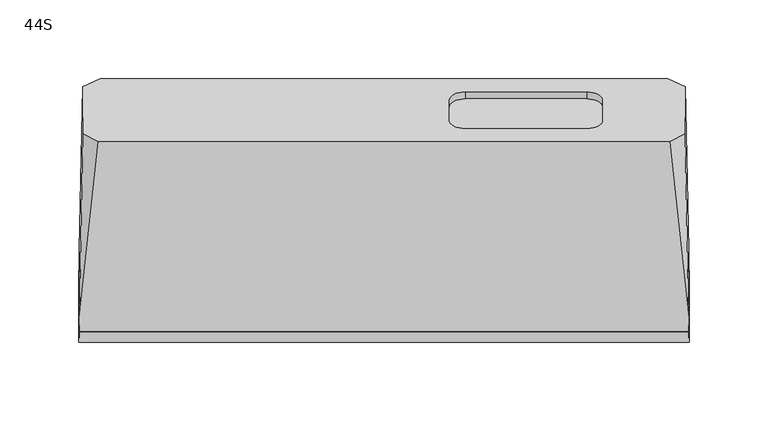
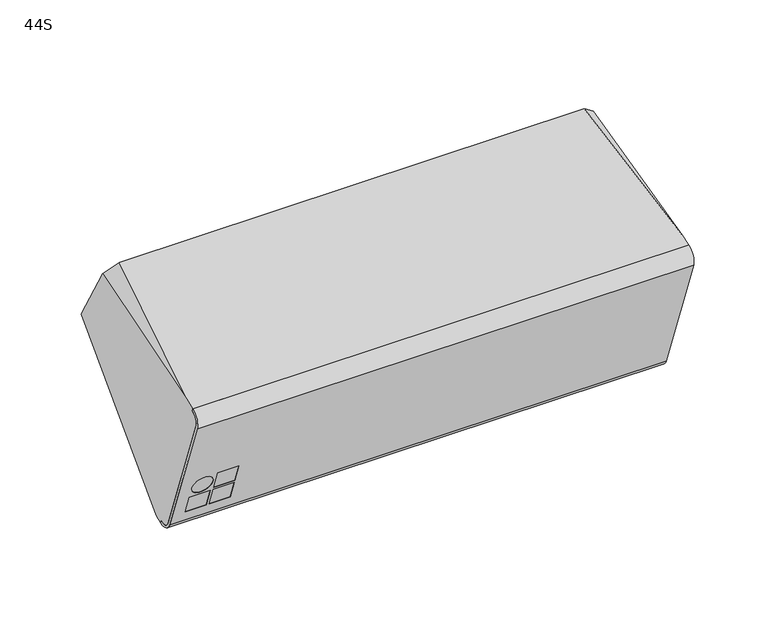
"""IFC4 building model written with IfcOpenShell, lengths in millimetres: proxy geometry, d&b xS-Series 44S Point Source : 44S."""

import ifcopenshell
import ifcopenshell.guid

model = None  # the IFC model being written
_history = None  # IfcOwnerHistory: only IFC2X3 demands one
_inside = {}  # id of a spatial element -> (the spatial element, [elements in it])
_under = {}  # id of a project, library or spatial element -> (it, [spatial elements below it])
_declared = {}  # id of a project -> (the project, [libraries it declares])
_typed = {}  # id of a type object -> (the type object, [elements of that type])
_made_of = {}  # id of a material, layer set ... -> (it, [elements and type objects made of it])


def new_model(schema):
    """Start an empty IFC model of exactly this schema.

    Asked for "IFC4X3", IfcOpenShell would pick the latest addendum, in which some entities
    have other attributes; the version numbers below select the first issue.
    IFC2X3 requires an IfcOwnerHistory on every rooted entity: one is made here for all.
    """
    global model, _history
    if schema == "IFC4X3":
        model = ifcopenshell.file(schema_version=(4, 3, 0, 0))
    else:
        model = ifcopenshell.file(schema=schema)
    _inside.clear()
    _under.clear()
    _declared.clear()
    _typed.clear()
    _made_of.clear()
    _history = None
    if model.schema == "IFC2X3":
        org = make("IfcOrganization", Name="unknown")
        user = make(
            "IfcPersonAndOrganization",
            ThePerson=make("IfcPerson", FamilyName="unknown"),
            TheOrganization=org,
        )
        app = make(
            "IfcApplication",
            ApplicationDeveloper=org,
            Version="unknown",
            ApplicationFullName="unknown",
            ApplicationIdentifier="unknown",
        )
        _history = make(
            "IfcOwnerHistory",
            OwningUser=user,
            OwningApplication=app,
            ChangeAction="ADDED",
            CreationDate=0,
        )
    return model


def make(cls, **values):
    """One entity of the class cls with the attributes given. An attribute that is None is left unset."""
    return model.create_entity(
        cls, **{name: value for name, value in values.items() if value is not None}
    )


def rooted(cls, **values):
    """An entity with a GlobalId (a new one), such as an element, a storey or a relation."""
    return make(cls, GlobalId=ifcopenshell.guid.new(), OwnerHistory=_history, **values)


def si_unit(unit_type, name, prefix=None):
    """IfcSIUnit, for example si_unit("LENGTHUNIT", "METRE", prefix="MILLI")."""
    return make("IfcSIUnit", UnitType=unit_type, Prefix=prefix, Name=name)


def assignment(units):
    """IfcUnitAssignment: the units of a project."""
    return None if units is None else make("IfcUnitAssignment", Units=units)


def point(xyz):
    """IfcCartesianPoint."""
    return None if xyz is None else make("IfcCartesianPoint", Coordinates=xyz)


def direction(xyz):
    """IfcDirection."""
    return None if xyz is None else make("IfcDirection", DirectionRatios=xyz)


def frame(location, z_axis=None, x_axis=None):
    """IfcAxis2Placement3D, a coordinate frame: its origin and axes. An axis left out is left unset."""
    return make(
        "IfcAxis2Placement3D",
        Location=point(location),
        Axis=direction(z_axis),
        RefDirection=direction(x_axis),
    )


def frame_2d(location, x_axis=None):
    """IfcAxis2Placement2D, a coordinate frame in the plane: its origin and x axis."""
    return make(
        "IfcAxis2Placement2D", Location=point(location), RefDirection=direction(x_axis)
    )


def origin():
    """The frame at (0, 0, 0) with its axes left unset."""
    return frame((0.0, 0.0, 0.0))


def place(relative_to, where):
    """IfcLocalPlacement: puts the frame where relative to a parent placement (None: the world)."""
    return make(
        "IfcLocalPlacement", PlacementRelTo=relative_to, RelativePlacement=where
    )


def context(
    kind, dimensions, precision=None, world=None, true_north=None, identifier=None
):
    """IfcGeometricRepresentationContext, for example the 3D "Model" context."""
    return make(
        "IfcGeometricRepresentationContext",
        ContextIdentifier=identifier,
        ContextType=kind,
        CoordinateSpaceDimension=dimensions,
        Precision=precision,
        WorldCoordinateSystem=world,
        TrueNorth=true_north,
    )


def project(units=None, contexts=None):
    """IfcProject with its units and contexts."""
    return rooted(
        "IfcProject",
        Name="project",
        RepresentationContexts=contexts,
        UnitsInContext=assignment(units),
    )


def spatial(cls, under=None, at=None, **own):
    """A site, building, storey or space (cls), placed at a placement, below another one or the project."""
    s = rooted(cls, ObjectPlacement=at, **own)
    if under is not None:
        _under.setdefault(under.id(), (under, []))[1].append(s)
    return s


def polyline(points):
    """IfcPolyline through the points."""
    return make("IfcPolyline", Points=[point(p) for p in points])


def circle_curve(where, radius):
    """IfcCircle in the frame where."""
    return make("IfcCircle", Position=where, Radius=radius)


def ellipse_curve(where, semi_axis1, semi_axis2):
    """IfcEllipse in the frame where."""
    return make(
        "IfcEllipse", Position=where, SemiAxis1=semi_axis1, SemiAxis2=semi_axis2
    )


def trimmed(basis, trim1, trim2, sense, master):
    """IfcTrimmedCurve: the piece of a basis curve between two trims."""
    return make(
        "IfcTrimmedCurve",
        BasisCurve=basis,
        Trim1=trim1,
        Trim2=trim2,
        SenseAgreement=sense,
        MasterRepresentation=master,
    )


def segment(curve, same_sense, transition):
    """IfcCompositeCurveSegment."""
    return make(
        "IfcCompositeCurveSegment",
        Transition=transition,
        SameSense=same_sense,
        ParentCurve=curve,
    )


def composite_curve(segments, self_intersect=None):
    """IfcCompositeCurve: segments joined end to end."""
    return make("IfcCompositeCurve", Segments=segments, SelfIntersect=self_intersect)


def outline(outer, holes=None, kind="AREA"):
    """IfcArbitraryClosedProfileDef: a profile drawn as a closed curve; with holes, ...WithVoids."""
    if holes is None:
        return make("IfcArbitraryClosedProfileDef", ProfileType=kind, OuterCurve=outer)
    return make(
        "IfcArbitraryProfileDefWithVoids",
        ProfileType=kind,
        OuterCurve=outer,
        InnerCurves=holes,
    )


def extrude(swept, where, along, depth):
    """IfcExtrudedAreaSolid: the profile swept, set in the frame where, extruded along a direction by depth."""
    return make(
        "IfcExtrudedAreaSolid",
        SweptArea=swept,
        Position=where,
        ExtrudedDirection=direction(along),
        Depth=depth,
    )


def shape(context_of_items, identifier, shape_type, items):
    """IfcShapeRepresentation: the items that make up one representation, for example the "Body"."""
    return make(
        "IfcShapeRepresentation",
        ContextOfItems=context_of_items,
        RepresentationIdentifier=identifier,
        RepresentationType=shape_type,
        Items=items,
    )


def source(mapping_origin, context_of_items, identifier, shape_type, items):
    """IfcRepresentationMap: a shape defined once, which mapped items show again and again."""
    return make(
        "IfcRepresentationMap",
        MappingOrigin=mapping_origin,
        MappedRepresentation=shape(context_of_items, identifier, shape_type, items),
    )


def transform(
    local_origin,
    x_axis=None,
    y_axis=None,
    z_axis=None,
    scale=None,
    scale2=None,
    scale3=None,
    uniform=True,
):
    """IfcCartesianTransformationOperator3D, or its non-uniform kind. x_axis, y_axis, z_axis: its Axis1, 2, 3."""
    if uniform:
        return make(
            "IfcCartesianTransformationOperator3D",
            Axis1=direction(x_axis),
            Axis2=direction(y_axis),
            LocalOrigin=point(local_origin),
            Scale=scale,
            Axis3=direction(z_axis),
        )
    return make(
        "IfcCartesianTransformationOperator3DnonUniform",
        Axis1=direction(x_axis),
        Axis2=direction(y_axis),
        LocalOrigin=point(local_origin),
        Scale=scale,
        Axis3=direction(z_axis),
        Scale2=scale2,
        Scale3=scale3,
    )


def mapped(mapping_source, mapping_target):
    """IfcMappedItem: shows the shape of a source again, moved by a transform."""
    return make(
        "IfcMappedItem", MappingSource=mapping_source, MappingTarget=mapping_target
    )


def made_of(thing, what):
    """Note that an element or type object is made of a material, layer set ...; save() writes the relation."""
    if what is not None:
        _made_of.setdefault(what.id(), (what, []))[1].append(thing)
    return thing


def element(
    cls,
    number,
    at=None,
    inside=None,
    cuts=None,
    type_object=None,
    material=None,
    context=None,
    identifier="Body",
    shape_type=None,
    held_by="IfcProductDefinitionShape",
    body=None,
    shapes=None,
    **own,
):
    """One element of the class cls, such as IfcWall. Its Tag is "e" and its number.

    at: its placement. inside: the storey or other place that contains it. cuts: it is an
    opening in that element (IfcRelVoidsElement). A single representation is given by context,
    identifier, shape_type and body (its items); several are given by shapes. held_by: the class
    of the entity that holds the representations. save() writes the other relations.
    """
    e = rooted(cls, Tag="e%d" % number, ObjectPlacement=at, **own)
    if body is not None:
        shapes = [shape(context, identifier, shape_type, body)]
    if shapes is not None:
        e.Representation = make(held_by, Representations=shapes)
    if inside is not None:
        _inside.setdefault(inside.id(), (inside, []))[1].append(e)
    if cuts is not None:
        rooted(
            "IfcRelVoidsElement", RelatingBuildingElement=cuts, RelatedOpeningElement=e
        )
    if type_object is not None:
        _typed.setdefault(type_object.id(), (type_object, []))[1].append(e)
    return made_of(e, material)


def aggregate(whole, parts):
    """IfcRelAggregates: a whole, such as a stair, and the parts it consists of."""
    return rooted("IfcRelAggregates", RelatingObject=whole, RelatedObjects=parts)


def save(model, path):
    """Write the relations noted so far, then the file.

    IfcRelAggregates (storeys below a building ...), IfcRelContainedInSpatialStructure (elements
    in a storey), IfcRelDefinesByType, IfcRelAssociatesMaterial and IfcRelDeclares: one each for
    every whole, place, type object, material and project.
    """
    for whole, parts in _under.values():
        aggregate(whole, parts)
    for where, things in _inside.values():
        rooted(
            "IfcRelContainedInSpatialStructure",
            RelatedElements=things,
            RelatingStructure=where,
        )
    for kind, things in _typed.values():
        rooted("IfcRelDefinesByType", RelatedObjects=things, RelatingType=kind)
    for what, things in _made_of.values():
        rooted("IfcRelAssociatesMaterial", RelatedObjects=things, RelatingMaterial=what)
    for by, libraries in _declared.values():
        rooted("IfcRelDeclares", RelatingContext=by, RelatedDefinitions=libraries)
    model.write(path)


def plane_surface(at):
    """IfcPlane: the flat surface through the origin of the frame at, square to its z axis."""
    return make("IfcPlane", Position=at)


def cylinder_surface(at, radius):
    """IfcCylindricalSurface: all points at the distance radius from the z axis of the frame at."""
    return make("IfcCylindricalSurface", Position=at, Radius=radius)


def revolved_surface(curve, axis_point, axis_direction):
    """IfcSurfaceOfRevolution: the curve turned about the line through axis_point along axis_direction."""
    return make(
        "IfcSurfaceOfRevolution",
        SweptCurve=make("IfcArbitraryOpenProfileDef", ProfileType="CURVE", Curve=curve),
        AxisPosition=make("IfcAxis1Placement", Location=point(axis_point), Axis=direction(axis_direction)),
    )


def advanced_brep(points, edges, surfaces, faces):
    """IfcAdvancedBrep: a solid bounded by faces that lie on surfaces and meet in shared edges.

    An edge is (start, end): straight between two places in points (the first is 0);
    or (start, end, curve); or (start, end, curve, False) where it runs against its curve.
    A face is (place in surfaces, loops), or (place, loops, False) where it looks against
    its surface's normal. A loop lists edges by number (the first is 1), with a minus sign
    where the edge is run from its end to its start. The first loop is the outer one.
    """
    corners = [point(p) for p in points]
    vertices = [make("IfcVertexPoint", VertexGeometry=c) for c in corners]
    made = []
    for start, end, *more in edges:
        made.append(
            make(
                "IfcEdgeCurve",
                EdgeStart=vertices[start],
                EdgeEnd=vertices[end],
                EdgeGeometry=more[0] if more else make("IfcPolyline", Points=[corners[start], corners[end]]),
                SameSense=more[1] if len(more) > 1 else True,
            )
        )
    hull = []
    for where, loops, *sense in faces:
        bounds = []
        for j, loop in enumerate(loops):
            ring = [make("IfcOrientedEdge", EdgeElement=made[abs(k) - 1], Orientation=k > 0) for k in loop]
            bounds.append(
                make(
                    "IfcFaceOuterBound" if j == 0 else "IfcFaceBound",
                    Bound=make("IfcEdgeLoop", EdgeList=ring),
                    Orientation=True,
                )
            )
        hull.append(make("IfcAdvancedFace", Bounds=bounds, FaceSurface=surfaces[where], SameSense=sense[0] if sense else True))
    return make("IfcAdvancedBrep", Outer=make("IfcClosedShell", CfsFaces=hull))


def proxy_44s_524f0f77(model_context):
    return source(origin(), model_context, "Body", "SolidModel", [
        advanced_brep(
        [(193.4294708, -51.0353664, -76.040954), (193.4294708, -88.0003662, 25.5195483), (193.2924342, -83.239848, 35.7285124), (193.2924342, -83.9090021, 37.5669983), (193.4644806, -89.8857269, 24.7498706), (193.4644806, -52.9475514, -76.7369324), (193.2918337, -40.0856859, -82.7345188), (193.2918337, -40.7816643, -80.8223338), (-193.4294708, -88.0003662, 25.5195483), (-193.4294708, -51.0353664, -76.040954), (-193.2918337, -40.7816643, -80.8223338), (-193.2918337, -40.0856859, -82.7345188), (-193.4644806, -52.9475514, -76.7369324), (-193.4644806, -89.8857269, 24.7498706), (-193.2924342, -83.9090021, 37.5669983), (-193.2924342, -83.239848, 35.7285124), (-164.7978139, -60.8399438, -49.1030989), (-148.4644806, -60.8399438, -49.1030989), (-148.4644806, -66.4262729, -33.754786), (-164.7978139, -66.4262729, -33.754786), (-164.7978139, -54.4555678, -66.6440278), (-148.4644806, -54.4555678, -66.6440278), (-148.4644806, -60.0418968, -51.295715), (-164.7978139, -60.0418968, -51.295715), (-183.4644806, -54.4555678, -66.6440278), (-167.1311473, -54.4555678, -66.6440278), (-167.1311473, -60.0418968, -51.295715), (-183.4644806, -60.0418968, -51.295715), (-167.1311473, -63.6331083, -41.4289424), (-183.4644806, -63.6331083, -41.4289424), (-148.4644806, -62.7521289, -49.7990773), (-164.7978139, -62.7521289, -49.7990773), (-164.7978139, -68.3384579, -34.4507645), (-148.4644806, -68.3384579, -34.4507645), (-148.4644806, -56.3677529, -67.3400062), (-164.7978139, -56.3677529, -67.3400062), (-164.7978139, -61.9540819, -51.9916934), (-148.4644806, -61.9540819, -51.9916934), (-167.1311473, -56.3677529, -67.3400062), (-183.4644806, -56.3677529, -67.3400062), (-183.4644806, -61.9540819, -51.9916934), (-167.1311473, -61.9540819, -51.9916934), (-183.4644806, -65.5452934, -42.1249209), (-167.1311473, -65.5452934, -42.1249209)],
        [
            (0, 1),
            (1, 2, ellipse_curve(frame((193.2924342, -80.515625, 28.2437713), z_axis=(-0.9998520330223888, -0.01616468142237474, -0.005883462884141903), x_axis=(-0.017202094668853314, 0.9395535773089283, 0.34196953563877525)), 7.9662739, 7.9650952)),
            (2, 3),
            (3, 4, ellipse_curve(frame((193.2924342, -80.4888007, 28.1700721), z_axis=(0.9998520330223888, 0.01616468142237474, 0.005883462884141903), x_axis=(0.017202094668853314, -0.9395535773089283, -0.34196953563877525)), 10.0014799, 10.0)),
            (4, 5),
            (5, 6, ellipse_curve(frame((193.2918337, -43.5178254, -73.3047928), z_axis=(0.9998520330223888, 0.01616468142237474, 0.005883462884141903), x_axis=(0.017202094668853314, -0.9395535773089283, -0.34196953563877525)), 10.0363899, 10.0349048)),
            (6, 7),
            (7, 0, ellipse_curve(frame((193.2918337, -43.5178254, -73.3047928), z_axis=(-0.9998520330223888, -0.01616468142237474, -0.005883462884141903), x_axis=(-0.017202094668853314, 0.9395535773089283, 0.34196953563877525)), 8.0011839, 8.0)),
            (8, 9),
            (9, 10, ellipse_curve(frame((-193.2918337, -43.5178254, -73.3047928), z_axis=(0.999852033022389, -0.01616468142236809, -0.005883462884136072), x_axis=(-0.017202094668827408, -0.9395535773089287, -0.3419695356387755)), 8.0011839, 8.0)),
            (10, 11),
            (11, 12, ellipse_curve(frame((-193.2918337, -43.5178254, -73.3047928), z_axis=(-0.999852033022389, 0.01616468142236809, 0.005883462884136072), x_axis=(0.017202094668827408, 0.9395535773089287, 0.3419695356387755)), 10.0363899, 10.0349048)),
            (12, 13),
            (13, 14, ellipse_curve(frame((-193.2924342, -80.4888007, 28.1700721), z_axis=(-0.999852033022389, 0.01616468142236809, 0.005883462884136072), x_axis=(0.017202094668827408, 0.9395535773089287, 0.3419695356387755)), 10.0014799, 10.0)),
            (14, 15),
            (15, 8, ellipse_curve(frame((-193.2924342, -80.515625, 28.2437713), z_axis=(0.999852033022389, -0.01616468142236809, -0.005883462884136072), x_axis=(-0.017202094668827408, -0.9395535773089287, -0.3419695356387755)), 7.9662739, 7.9650952)),
            (0, 9),
            (8, 1),
            (16, 17),
            (17, 18),
            (18, 19),
            (19, 16),
            (20, 21),
            (21, 22),
            (22, 23),
            (23, 20),
            (24, 25),
            (25, 26),
            (26, 27),
            (27, 24),
            (28, 29, circle_curve(frame((-175.2978139, -63.6331083, -41.4289424), z_axis=(0.0, -0.9396926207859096, -0.3420201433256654), x_axis=(1.0, 0.0, 0.0)), 8.1666667)),
            (29, 28, circle_curve(frame((-175.2978139, -63.6331083, -41.4289424), z_axis=(0.0, -0.9396926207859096, -0.3420201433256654), x_axis=(1.0, 0.0, 0.0)), 8.1666667)),
            (15, 2),
            (14, 3),
            (13, 4),
            (12, 5),
            (30, 31),
            (31, 32),
            (32, 33),
            (33, 30),
            (34, 35),
            (35, 36),
            (36, 37),
            (37, 34),
            (38, 39),
            (39, 40),
            (40, 41),
            (41, 38),
            (42, 43, circle_curve(frame((-175.2978139, -65.5452934, -42.1249209), z_axis=(0.0, 0.9396926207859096, 0.3420201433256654), x_axis=(1.0, 0.0, 0.0)), 8.1666667)),
            (43, 42, circle_curve(frame((-175.2978139, -65.5452934, -42.1249209), z_axis=(0.0, 0.9396926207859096, 0.3420201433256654), x_axis=(1.0, 0.0, 0.0)), 8.1666667)),
            (11, 6),
            (10, 7),
            (16, 31),
            (30, 17),
            (19, 32),
            (18, 33),
            (20, 35),
            (34, 21),
            (23, 36),
            (22, 37),
            (24, 39),
            (38, 25),
            (27, 40),
            (26, 41),
            (28, 43),
            (42, 29),
        ],
        [
            plane_surface(frame((193.8309972, -57.2332338, -127.2489708), z_axis=(0.999852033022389, 0.016164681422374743, 0.0058834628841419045), x_axis=(0.0, -0.3420201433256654, 0.9396926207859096))),
            plane_surface(frame((-190.7119283, 113.1258102, -65.2433496), z_axis=(-0.999852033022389, 0.01616468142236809, 0.005883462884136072), x_axis=(0.0, -0.3420201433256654, 0.9396926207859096))),
            plane_surface(frame((202.5, -51.0353664, -76.040954), z_axis=(0.0, 0.9396926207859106, 0.3420201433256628), x_axis=(-1.0, 0.0, 0.0))),
            revolved_surface(polyline([(-193.4294708, -77.79140199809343, 20.75903011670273), (193.4294708, -77.79140199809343, 20.75903011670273)]), (-202.5, -80.515625, 28.2437713), (-1.0, 0.0, 0.0)),
            plane_surface(frame((202.5, -83.239848, 35.7285124), z_axis=(0.0, 0.939692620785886, 0.3420201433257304), x_axis=(-1.0, 0.0, 0.0))),
            cylinder_surface(frame((-202.5, -80.4888007, 28.1700721), z_axis=(1.0, 0.0, 0.0), x_axis=(0.0, 0.3420201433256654, -0.9396926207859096)), 10.0),
            plane_surface(frame((202.5, -89.8857269, 24.7498706), z_axis=(0.0, -0.9396926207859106, -0.34202014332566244), x_axis=(-1.0, 0.0, 0.0))),
            cylinder_surface(frame((-202.5, -43.5178254, -73.3047928), z_axis=(1.0, 0.0, 0.0), x_axis=(0.0, 0.3420201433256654, -0.9396926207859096)), 10.0349048),
            plane_surface(frame((202.5, -40.0856859, -82.7345188), z_axis=(0.0, 0.939692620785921, 0.34202014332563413), x_axis=(-1.0, 0.0, 0.0))),
            revolved_surface(polyline([(-193.4294708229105, -40.78166425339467, -80.82233376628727), (193.42947082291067, -40.78166425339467, -80.82233376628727)]), (-202.5, -43.5178254, -73.3047928), (-1.0, 0.0, 0.0)),
            plane_surface(frame((-164.7978139, -62.7521289, -49.7990773), z_axis=(0.0, -0.3420201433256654, 0.9396926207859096), x_axis=(0.0, 0.9396926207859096, 0.3420201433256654))),
            plane_surface(frame((-164.7978139, -68.3384579, -34.4507645), z_axis=(1.0, 0.0, 0.0), x_axis=(0.0, 0.9396926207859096, 0.3420201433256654))),
            plane_surface(frame((-148.4644806, -68.3384579, -34.4507645), z_axis=(0.0, 0.3420201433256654, -0.9396926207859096), x_axis=(0.0, 0.9396926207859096, 0.3420201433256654))),
            plane_surface(frame((-148.4644806, -62.7521289, -49.7990773), z_axis=(-1.0, 0.0, 0.0), x_axis=(0.0, 0.9396926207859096, 0.3420201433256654))),
            plane_surface(frame((-164.7978139, -56.3677529, -67.3400062), z_axis=(0.0, -0.3420201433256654, 0.9396926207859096), x_axis=(0.0, 0.9396926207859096, 0.3420201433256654))),
            plane_surface(frame((-164.7978139, -61.9540819, -51.9916934), z_axis=(1.0, 0.0, 0.0), x_axis=(0.0, 0.9396926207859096, 0.3420201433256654))),
            plane_surface(frame((-148.4644806, -61.9540819, -51.9916934), z_axis=(0.0, 0.3420201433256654, -0.9396926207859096), x_axis=(0.0, 0.9396926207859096, 0.3420201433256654))),
            plane_surface(frame((-148.4644806, -56.3677529, -67.3400062), z_axis=(-1.0, 0.0, 0.0), x_axis=(0.0, 0.9396926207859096, 0.3420201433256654))),
            plane_surface(frame((-183.4644806, -56.3677529, -67.3400062), z_axis=(0.0, -0.3420201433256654, 0.9396926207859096), x_axis=(0.0, 0.9396926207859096, 0.3420201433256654))),
            plane_surface(frame((-183.4644806, -61.9540819, -51.9916934), z_axis=(1.0, 0.0, 0.0), x_axis=(0.0, 0.9396926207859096, 0.3420201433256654))),
            plane_surface(frame((-167.1311473, -61.9540819, -51.9916934), z_axis=(0.0, 0.3420201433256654, -0.9396926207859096), x_axis=(0.0, 0.9396926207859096, 0.3420201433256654))),
            plane_surface(frame((-167.1311473, -56.3677529, -67.3400062), z_axis=(-1.0, 0.0, 0.0), x_axis=(0.0, 0.9396926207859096, 0.3420201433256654))),
            revolved_surface(polyline([(-167.1311472, -65.54529341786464, -42.12492085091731), (-167.1311472, -63.63310830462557, -41.42894238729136)]), (-175.2978139, -8.9266595, -21.5174234), (0.0, -0.9396926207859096, -0.3420201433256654)),
        ],
        [
            (0, [[1, 2, 3, 4, 5, 6, 7, 8]]),
            (1, [[9, 10, 11, 12, 13, 14, 15, 16]]),
            (2, [[17, -9, 18, -1], [19, 20, 21, 22], [23, 24, 25, 26], [27, 28, 29, 30], [31, 32]]),
            (3, [[-18, -16, 33, -2]]),
            (4, [[-33, -15, 34, -3]]),
            (5, [[-34, -14, 35, -4]]),
            (6, [[-35, -13, 36, -5], [37, 38, 39, 40], [41, 42, 43, 44], [45, 46, 47, 48], [49, 50]]),
            (7, [[-36, -12, 51, -6]]),
            (8, [[-51, -11, 52, -7]]),
            (9, [[-17, -8, -52, -10]]),
            (10, [[53, -37, 54, -19]]),
            (11, [[-53, -22, 55, -38]]),
            (12, [[-55, -21, 56, -39]]),
            (13, [[-56, -20, -54, -40]]),
            (14, [[57, -41, 58, -23]]),
            (15, [[-57, -26, 59, -42]]),
            (16, [[-59, -25, 60, -43]]),
            (17, [[-60, -24, -58, -44]]),
            (18, [[61, -45, 62, -27]]),
            (19, [[-61, -30, 63, -46]]),
            (20, [[-63, -29, 64, -47]]),
            (21, [[-64, -28, -62, -48]]),
            (22, [[65, -49, 66, -31]]),
            (22, [[-65, -32, -66, -50]]),
        ],
    ),
        extrude(outline(polyline([(0.0, -16.3333333), (0.0, 0.0), (5.0, 0.0), (5.0, -16.3333333), (0.0, -16.3333333)])), frame((-164.7978139, -62.7521289, -49.7990773), z_axis=(0.0, -0.3420201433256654, 0.9396926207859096), x_axis=(0.0, 0.9396926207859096, 0.3420201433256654)), (0.0, 0.0, 1.0), 16.3333333),
        extrude(outline(polyline([(0.0, -16.3333333), (0.0, 0.0), (5.0, 0.0), (5.0, -16.3333333), (0.0, -16.3333333)])), frame((-164.7978139, -56.3677529, -67.3400062), z_axis=(0.0, -0.3420201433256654, 0.9396926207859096), x_axis=(0.0, 0.9396926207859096, 0.3420201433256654)), (0.0, 0.0, 1.0), 16.3333333),
        extrude(outline(polyline([(0.0, -16.3333333), (0.0, 0.0), (5.0, 0.0), (5.0, -16.3333333), (0.0, -16.3333333)])), frame((-183.4644806, -56.3677529, -67.3400062), z_axis=(0.0, -0.3420201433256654, 0.9396926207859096), x_axis=(0.0, 0.9396926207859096, 0.3420201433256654)), (0.0, 0.0, 1.0), 16.3333333),
        extrude(outline(composite_curve([segment(trimmed(circle_curve(frame_2d((-17.5, -26.8333333)), 8.1666667), [point((-17.5, -35.0))], [point((-17.5, -18.6666667))], False, "CARTESIAN"), True, "CONTINUOUS"), segment(trimmed(circle_curve(frame_2d((-17.5, -26.8333333)), 8.1666667), [point((-17.5, -18.6666667))], [point((-17.5, -35.0))], False, "CARTESIAN"), True, "CONTINUOUS")], self_intersect=False)), frame((-148.4644806, -71.5306459, -25.6803), z_axis=(0.0, 0.9396926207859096, 0.3420201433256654), x_axis=(0.0, -0.3420201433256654, 0.9396926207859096)), (0.0, 0.0, 1.0), 5.0),
        advanced_brep(
        [(193.2924342, -83.9090021, 37.5669983), (193.2924342, -83.239848, 35.7285124), (193.4294708, -88.0003662, 25.5195483), (193.4294708, -51.0353664, -76.040954), (193.2918337, -40.7816643, -80.8223338), (193.2918337, -40.097624, -82.701719), (193.1898069, -34.5250679, -80.6734745), (193.132384, -31.8040928, -78.3906876), (190.8800877, 71.2358815, 21.2707984), (191.0574064, 41.5596575, 72.6715263), (193.132384, -75.1672912, 40.7487209), (-193.2924342, -83.239848, 35.7285124), (-193.2924342, -83.9090021, 37.5669983), (-193.132384, -75.1672912, 40.7487209), (-191.0574064, 41.5596575, 72.6715263), (-190.8800877, 71.2358815, 21.2707984), (-193.132384, -31.8040928, -78.3906876), (-193.1898069, -34.5250679, -80.6734745), (-193.2918337, -40.097624, -82.701719), (-193.2918337, -40.7816643, -80.8223338), (-193.4294708, -51.0353664, -76.040954), (-193.4294708, -88.0003662, 25.5195483), (181.3061997, 36.5204288, 81.3997265), (-181.3061997, 36.5204288, 81.3997265), (-179.9289467, 76.3759477, 12.3679427), (179.9289467, 76.3759477, 12.3679427), (138.5, 62.9481882, 35.6255043), (138.5, 49.9481882, 58.1421648), (128.5, 44.9481882, 66.8024188), (51.5, 44.9481882, 66.8024188), (41.5, 49.9481882, 58.1421648), (41.5, 62.9481882, 35.6255043), (51.5, 67.9481882, 26.9652503), (128.5, 67.9481882, 26.9652503), (138.5, 58.6180612, 33.1255043), (128.5, 63.6180612, 24.4652503), (51.5, 63.6180612, 24.4652503), (41.5, 58.6180612, 33.1255043), (41.5, 45.6180612, 55.6421648), (51.5, 40.6180612, 64.3024188), (128.5, 40.6180612, 64.3024188), (138.5, 45.6180612, 55.6421648)],
        [
            (0, 1),
            (1, 2, ellipse_curve(frame((193.2924342, -80.515625, 28.2437713), z_axis=(0.9998520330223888, 0.01616468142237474, 0.005883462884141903), x_axis=(0.01720209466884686, -0.9395535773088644, -0.34196953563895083)), 7.9662739, 7.9650952)),
            (2, 3),
            (3, 4, ellipse_curve(frame((193.2918337, -43.5178254, -73.3047928), z_axis=(0.9998520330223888, 0.01616468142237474, 0.005883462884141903), x_axis=(0.01720209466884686, -0.9395535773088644, -0.34196953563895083)), 8.0011839, 8.0)),
            (4, 5),
            (5, 6),
            (6, 7),
            (7, 8),
            (8, 9),
            (9, 10),
            (10, 0),
            (11, 12),
            (12, 13),
            (13, 14),
            (14, 15),
            (15, 16),
            (16, 17),
            (17, 18),
            (18, 19),
            (19, 20, ellipse_curve(frame((-193.2918337, -43.5178254, -73.3047928), z_axis=(-0.999852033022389, 0.01616468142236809, 0.005883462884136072), x_axis=(0.017202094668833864, 0.9395535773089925, 0.3419695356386)), 8.0011839, 8.0)),
            (20, 21),
            (21, 11, ellipse_curve(frame((-193.2924342, -80.515625, 28.2437713), z_axis=(-0.999852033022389, 0.01616468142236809, 0.005883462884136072), x_axis=(0.017202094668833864, 0.9395535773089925, 0.3419695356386)), 7.9662739, 7.9650952)),
            (0, 12),
            (11, 1),
            (21, 2),
            (20, 3),
            (19, 4),
            (18, 5),
            (17, 6),
            (10, 22),
            (22, 23),
            (23, 13),
            (16, 24),
            (24, 25),
            (25, 7),
            (9, 22),
            (23, 14),
            (15, 24),
            (25, 8),
            (26, 27),
            (27, 28, circle_curve(frame((128.5, 49.9481882, 58.1421648), z_axis=(0.0, -0.8660254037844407, -0.49999999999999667), x_axis=(0.0, 0.49999999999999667, -0.8660254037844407)), 10.0)),
            (28, 29),
            (29, 30, circle_curve(frame((51.5, 49.9481882, 58.1421648), z_axis=(0.0, -0.8660254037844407, -0.49999999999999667), x_axis=(0.0, 0.49999999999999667, -0.8660254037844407)), 10.0)),
            (30, 31),
            (31, 32, circle_curve(frame((51.5, 62.9481882, 35.6255043), z_axis=(0.0, -0.8660254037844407, -0.49999999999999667), x_axis=(0.0, 0.49999999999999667, -0.8660254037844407)), 10.0)),
            (32, 33),
            (33, 26, circle_curve(frame((128.5, 62.9481882, 35.6255043), z_axis=(0.0, -0.8660254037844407, -0.49999999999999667), x_axis=(0.0, 0.49999999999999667, -0.8660254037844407)), 10.0)),
            (34, 35, circle_curve(frame((128.5, 58.6180612, 33.1255043), z_axis=(0.0, 0.8660254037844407, 0.49999999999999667), x_axis=(0.0, 0.49999999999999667, -0.8660254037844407)), 10.0)),
            (35, 36),
            (36, 37, circle_curve(frame((51.5, 58.6180612, 33.1255043), z_axis=(0.0, 0.8660254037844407, 0.49999999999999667), x_axis=(0.0, 0.49999999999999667, -0.8660254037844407)), 10.0)),
            (37, 38),
            (38, 39, circle_curve(frame((51.5, 45.6180612, 55.6421648), z_axis=(0.0, 0.8660254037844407, 0.49999999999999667), x_axis=(0.0, 0.49999999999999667, -0.8660254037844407)), 10.0)),
            (39, 40),
            (40, 41, circle_curve(frame((128.5, 45.6180612, 55.6421648), z_axis=(0.0, 0.8660254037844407, 0.49999999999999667), x_axis=(0.0, 0.49999999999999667, -0.8660254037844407)), 10.0)),
            (41, 34),
            (41, 27),
            (26, 34),
            (40, 28),
            (39, 29),
            (38, 30),
            (37, 31),
            (36, 32),
            (35, 33),
        ],
        [
            plane_surface(frame((193.8309972, -57.2332338, -127.2489708), z_axis=(0.999852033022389, 0.016164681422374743, 0.0058834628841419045), x_axis=(0.0, -0.3420201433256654, 0.9396926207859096))),
            plane_surface(frame((-190.7119283, 113.1258102, -65.2433496), z_axis=(-0.999852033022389, 0.01616468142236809, 0.005883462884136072), x_axis=(0.0, -0.3420201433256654, 0.9396926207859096))),
            plane_surface(frame((207.1452552, -83.9090021, 37.5669983), z_axis=(0.0, -0.9396926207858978, -0.34202014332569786), x_axis=(-1.0, 0.0, 0.0))),
            cylinder_surface(frame((-207.1452552, -80.515625, 28.2437713), z_axis=(1.0, 0.0, 0.0), x_axis=(0.0, -0.3420201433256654, 0.9396926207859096)), 7.9650952),
            plane_surface(frame((207.1452552, -88.0003662, 25.5195483), z_axis=(0.0, -0.9396926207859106, -0.3420201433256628), x_axis=(-1.0, 0.0, 0.0))),
            cylinder_surface(frame((-207.1452552, -43.5178254, -73.3047928), z_axis=(1.0, 0.0, 0.0), x_axis=(0.0, -0.3420201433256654, 0.9396926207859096)), 8.0),
            plane_surface(frame((207.1452552, -40.7816643, -80.8223338), z_axis=(0.0, -0.9396926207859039, -0.34202014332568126), x_axis=(-1.0, 0.0, 0.0))),
            plane_surface(frame((207.1452552, -40.097624, -82.701719), z_axis=(0.0, 0.3420201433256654, -0.9396926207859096), x_axis=(-1.0, 0.0, 0.0))),
            plane_surface(frame((207.1452552, -78.3036462, 39.607181), z_axis=(0.0, -0.3420201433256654, 0.9396926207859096), x_axis=(-1.0, 0.0, 0.0))),
            plane_surface(frame((0.0, 76.3759477, 12.3679427), z_axis=(0.0, 0.6427244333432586, -0.766097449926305), x_axis=(1.0, 0.0, 0.0))),
            plane_surface(frame((186.6967137, 51.8420626, 79.774238), z_axis=(0.705363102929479, -0.1752970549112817, 0.6868288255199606), x_axis=(-0.7071067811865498, -0.2418447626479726, 0.6644630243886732))),
            plane_surface(frame((-186.6967137, 51.8420626, 79.774238), z_axis=(-0.705363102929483, -0.17529705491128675, 0.6868288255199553), x_axis=(-0.7071067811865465, 0.24184476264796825, -0.6644630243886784))),
            plane_surface(frame((-186.6967137, 74.0612351, 18.7275633), z_axis=(-0.6719558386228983, 0.5224136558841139, -0.5249374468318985), x_axis=(0.7071067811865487, 0.24184476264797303, -0.6644630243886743))),
            plane_surface(frame((186.6967137, 74.0612351, 18.7275633), z_axis=(0.6719558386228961, 0.5224136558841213, -0.5249374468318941), x_axis=(0.7071067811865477, -0.24184476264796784, 0.6644630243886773))),
            plane_surface(frame((250.0, 27.7580382, 96.576632), z_axis=(0.0, 0.8660254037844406, 0.4999999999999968), x_axis=(-1.0, 0.0, 0.0))),
            plane_surface(frame((138.5, 32.1903017, 78.8997265), z_axis=(0.0, 0.8660254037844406, 0.49999999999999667), x_axis=(0.0, -0.49999999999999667, 0.8660254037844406))),
            plane_surface(frame((138.5, 58.6180612, 33.1255043), z_axis=(-1.0, 0.0, 0.0), x_axis=(0.0, 0.8660254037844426, 0.49999999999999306))),
            revolved_surface(polyline([(128.5, 50.61806117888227, 46.98191076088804), (128.5, 54.94818819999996, 49.48191076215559)]), (128.5, 49.9481882, 58.1421648), (0.0, -0.8660254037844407, -0.49999999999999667)),
            plane_surface(frame((128.5, 40.6180612, 64.3024188), z_axis=(0.0, 0.49999999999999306, -0.8660254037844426), x_axis=(0.0, 0.8660254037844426, 0.49999999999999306))),
            revolved_surface(polyline([(51.5, 50.61806117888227, 46.98191076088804), (51.5, 54.94818819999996, 49.48191076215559)]), (51.5, 49.9481882, 58.1421648), (0.0, -0.8660254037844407, -0.49999999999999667)),
            plane_surface(frame((41.5, 45.6180612, 55.6421648), z_axis=(1.0, 0.0, 0.0), x_axis=(0.0, 0.8660254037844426, 0.49999999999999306))),
            revolved_surface(polyline([(51.5, 63.618061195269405, 24.465250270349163), (51.5, 67.9481882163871, 26.965250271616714)]), (51.5, 62.9481882, 35.6255043), (0.0, -0.8660254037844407, -0.49999999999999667)),
            plane_surface(frame((51.5, 63.6180612, 24.4652503), z_axis=(0.0, -0.49999999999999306, 0.8660254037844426), x_axis=(0.0, 0.8660254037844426, 0.49999999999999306))),
            revolved_surface(polyline([(128.5, 63.618061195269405, 24.465250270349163), (128.5, 67.9481882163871, 26.965250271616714)]), (128.5, 62.9481882, 35.6255043), (0.0, -0.8660254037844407, -0.49999999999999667)),
        ],
        [
            (0, [[1, 2, 3, 4, 5, 6, 7, 8, 9, 10, 11]]),
            (1, [[12, 13, 14, 15, 16, 17, 18, 19, 20, 21, 22]]),
            (2, [[23, -12, 24, -1]]),
            (3, [[-24, -22, 25, -2]]),
            (4, [[-25, -21, 26, -3]]),
            (5, [[-26, -20, 27, -4]]),
            (6, [[-27, -19, 28, -5]]),
            (7, [[-28, -18, 29, -6]]),
            (8, [[-23, -11, 30, 31, 32, -13]]),
            (9, [[-29, -17, 33, 34, 35, -7]]),
            (10, [[-30, -10, 36]]),
            (11, [[-32, 37, -14]]),
            (12, [[-33, -16, 38]]),
            (13, [[-35, 39, -8]]),
            (14, [[-31, -36, -9, -39, -34, -38, -15, -37], [40, 41, 42, 43, 44, 45, 46, 47]]),
            (15, [[48, 49, 50, 51, 52, 53, 54, 55]]),
            (16, [[-55, 56, -40, 57]]),
            (17, [[-54, 58, -41, -56]]),
            (18, [[-53, 59, -42, -58]]),
            (19, [[-52, 60, -43, -59]]),
            (20, [[-51, 61, -44, -60]]),
            (21, [[-50, 62, -45, -61]]),
            (22, [[-49, 63, -46, -62]]),
            (23, [[-48, -57, -47, -63]]),
        ],
    ),
    ])


if __name__ == "__main__":
    model = new_model("IFC4")
    model_context = context("Model", 3, world=origin())
    ifc_project = project(units=[si_unit("LENGTHUNIT", "METRE", prefix="MILLI")], contexts=[model_context])
    site = spatial("IfcSite", under=ifc_project)
    building = spatial("IfcBuilding", under=site)
    placement = place(None, origin())
    proxy_44s_shape = proxy_44s_524f0f77(model_context)
    element("IfcBuildingElementProxy", 1, Name="d&b xS-Series 44S Point Source : 44S", ObjectType="d&b xS-Series 44S Point Source : 44S", at=placement, inside=building, context=model_context, shape_type="MappedRepresentation", body=[
        mapped(proxy_44s_shape, transform((0.0, 0.0, 0.0), x_axis=(1.0, 0.0, 0.0), y_axis=(0.0, 1.0, 0.0), z_axis=(0.0, 0.0, 1.0))),
    ])
    save(model, "model.ifc")
